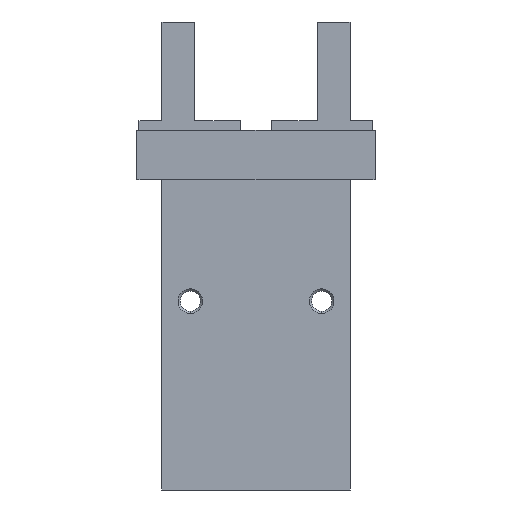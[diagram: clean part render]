
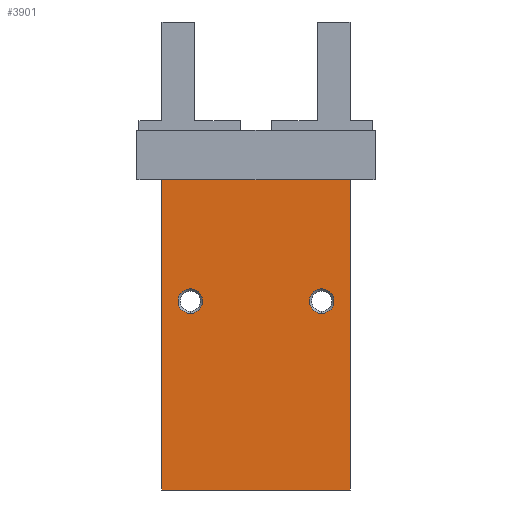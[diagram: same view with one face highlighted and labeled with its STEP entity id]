
A CAD part, front view. The second image highlights one B-rep face of the part: STEP entity #3901.
In plain terms, the highlighted planar face has unit normal (0, -1, 0).
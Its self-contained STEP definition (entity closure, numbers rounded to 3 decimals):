
#109 = CARTESIAN_POINT ( 'NONE',  ( -8., -8.2, 23. ) ) ;
#119 = CIRCLE ( 'NONE', #3959, 1.5 ) ;
#312 = PLANE ( 'NONE',  #845 ) ;
#346 = LINE ( 'NONE', #1811, #2382 ) ;
#504 = DIRECTION ( 'NONE',  ( 0., 0., -1. ) ) ;
#599 = VECTOR ( 'NONE', #3357, 1000. ) ;
#679 = CIRCLE ( 'NONE', #695, 1.5 ) ;
#695 = AXIS2_PLACEMENT_3D ( 'NONE', #109, #2926, #504 ) ;
#845 = AXIS2_PLACEMENT_3D ( 'NONE', #3537, #1127, #3949 ) ;
#949 = DIRECTION ( 'NONE',  ( 0., -1., 0. ) ) ;
#990 = EDGE_CURVE ( 'NONE', #3705, #3221, #1493, .T. ) ;
#1080 = EDGE_LOOP ( 'NONE', ( #2573, #4417, #3315, #5047 ) ) ;
#1127 = DIRECTION ( 'NONE',  ( 0., -1., 0. ) ) ;
#1175 = FACE_OUTER_BOUND ( 'NONE', #1080, .T. ) ;
#1493 = LINE ( 'NONE', #1950, #2563 ) ;
#1534 = VERTEX_POINT ( 'NONE', #3745 ) ;
#1657 = DIRECTION ( 'NONE',  ( 0., -1., 0. ) ) ;
#1792 = EDGE_CURVE ( 'NONE', #1534, #5093, #5035, .T. ) ;
#1808 = VECTOR ( 'NONE', #2199, 1000. ) ;
#1811 = CARTESIAN_POINT ( 'NONE',  ( 11.5, -8.2, 0. ) ) ;
#1828 = CARTESIAN_POINT ( 'NONE',  ( -11.5, -8.2, 37.8 ) ) ;
#1950 = CARTESIAN_POINT ( 'NONE',  ( 0., -8.2, 37.8 ) ) ;
#2029 = VERTEX_POINT ( 'NONE', #3063 ) ;
#2124 = FACE_BOUND ( 'NONE', #4842, .T. ) ;
#2179 = CARTESIAN_POINT ( 'NONE',  ( -11.5, -8.2, 0. ) ) ;
#2199 = DIRECTION ( 'NONE',  ( 1., 0., 0. ) ) ;
#2288 = DIRECTION ( 'NONE',  ( -1., 0., 0. ) ) ;
#2382 = VECTOR ( 'NONE', #4651, 1000. ) ;
#2385 = DIRECTION ( 'NONE',  ( 0., 1., 0. ) ) ;
#2469 = CIRCLE ( 'NONE', #4339, 1.5 ) ;
#2563 = VECTOR ( 'NONE', #2288, 1000. ) ;
#2573 = ORIENTED_EDGE ( 'NONE', *, *, #1792, .T. ) ;
#2730 = AXIS2_PLACEMENT_3D ( 'NONE', #4069, #1657, #4484 ) ;
#2908 = ORIENTED_EDGE ( 'NONE', *, *, #3123, .F. ) ;
#2926 = DIRECTION ( 'NONE',  ( 0., 1., 0. ) ) ;
#2930 = EDGE_CURVE ( 'NONE', #4103, #2029, #2469, .T. ) ;
#3057 = CARTESIAN_POINT ( 'NONE',  ( 8., -8.2, 24.5 ) ) ;
#3063 = CARTESIAN_POINT ( 'NONE',  ( -8., -8.2, 24.5 ) ) ;
#3123 = EDGE_CURVE ( 'NONE', #4631, #4188, #119, .T. ) ;
#3221 = VERTEX_POINT ( 'NONE', #1828 ) ;
#3263 = ORIENTED_EDGE ( 'NONE', *, *, #2930, .T. ) ;
#3315 = ORIENTED_EDGE ( 'NONE', *, *, #990, .T. ) ;
#3357 = DIRECTION ( 'NONE',  ( 0., 0., -1. ) ) ;
#3362 = CARTESIAN_POINT ( 'NONE',  ( 8., -8.2, 23. ) ) ;
#3393 = EDGE_CURVE ( 'NONE', #3221, #1534, #3821, .T. ) ;
#3394 = CARTESIAN_POINT ( 'NONE',  ( 11.5, -8.2, 0. ) ) ;
#3537 = CARTESIAN_POINT ( 'NONE',  ( -11.5, -8.2, 0. ) ) ;
#3647 = ORIENTED_EDGE ( 'NONE', *, *, #4992, .T. ) ;
#3705 = VERTEX_POINT ( 'NONE', #3814 ) ;
#3745 = CARTESIAN_POINT ( 'NONE',  ( -11.5, -8.2, 0. ) ) ;
#3774 = DIRECTION ( 'NONE',  ( 0., 0., -1. ) ) ;
#3814 = CARTESIAN_POINT ( 'NONE',  ( 11.5, -8.2, 37.8 ) ) ;
#3821 = LINE ( 'NONE', #2179, #599 ) ;
#3901 = ADVANCED_FACE ( 'NONE', ( #4272, #2124, #1175 ), #312, .T. ) ;
#3949 = DIRECTION ( 'NONE',  ( 1., 0., 0. ) ) ;
#3959 = AXIS2_PLACEMENT_3D ( 'NONE', #3362, #949, #3774 ) ;
#4057 = EDGE_CURVE ( 'NONE', #4188, #4631, #4586, .T. ) ;
#4069 = CARTESIAN_POINT ( 'NONE',  ( 8., -8.2, 23. ) ) ;
#4103 = VERTEX_POINT ( 'NONE', #4918 ) ;
#4136 = CARTESIAN_POINT ( 'NONE',  ( 8., -8.2, 21.5 ) ) ;
#4188 = VERTEX_POINT ( 'NONE', #4136 ) ;
#4234 = ORIENTED_EDGE ( 'NONE', *, *, #4057, .F. ) ;
#4272 = FACE_BOUND ( 'NONE', #4945, .T. ) ;
#4276 = EDGE_CURVE ( 'NONE', #5093, #3705, #346, .T. ) ;
#4339 = AXIS2_PLACEMENT_3D ( 'NONE', #4817, #2385, #5214 ) ;
#4417 = ORIENTED_EDGE ( 'NONE', *, *, #4276, .T. ) ;
#4484 = DIRECTION ( 'NONE',  ( 0., 0., -1. ) ) ;
#4586 = CIRCLE ( 'NONE', #2730, 1.5 ) ;
#4618 = CARTESIAN_POINT ( 'NONE',  ( 0., -8.2, 0. ) ) ;
#4631 = VERTEX_POINT ( 'NONE', #3057 ) ;
#4651 = DIRECTION ( 'NONE',  ( 0., 0., 1. ) ) ;
#4817 = CARTESIAN_POINT ( 'NONE',  ( -8., -8.2, 23. ) ) ;
#4842 = EDGE_LOOP ( 'NONE', ( #3263, #3647 ) ) ;
#4918 = CARTESIAN_POINT ( 'NONE',  ( -8., -8.2, 21.5 ) ) ;
#4945 = EDGE_LOOP ( 'NONE', ( #4234, #2908 ) ) ;
#4992 = EDGE_CURVE ( 'NONE', #2029, #4103, #679, .T. ) ;
#5035 = LINE ( 'NONE', #4618, #1808 ) ;
#5047 = ORIENTED_EDGE ( 'NONE', *, *, #3393, .T. ) ;
#5093 = VERTEX_POINT ( 'NONE', #3394 ) ;
#5214 = DIRECTION ( 'NONE',  ( 0., 0., -1. ) ) ;
